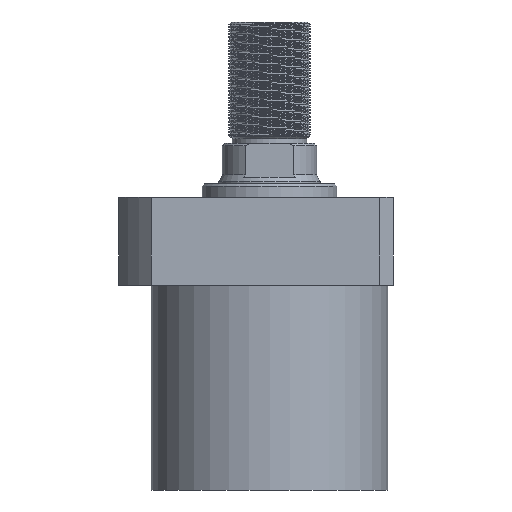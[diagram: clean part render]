
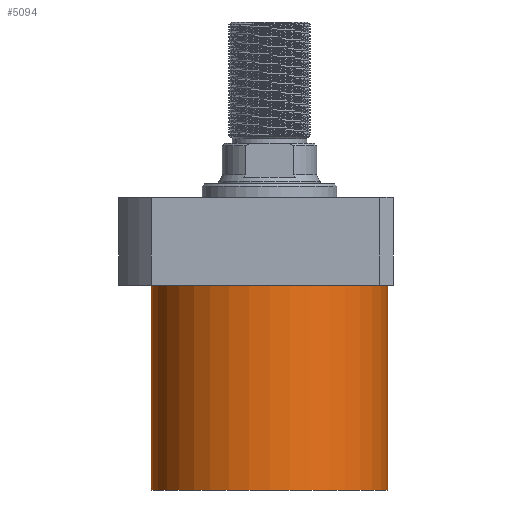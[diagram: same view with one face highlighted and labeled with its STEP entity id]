
A CAD part, front view. The second image highlights one B-rep face of the part: STEP entity #5094.
In plain terms, the highlighted cylindrical face has radius 52.5 mm (diameter 105 mm), a partial arc.
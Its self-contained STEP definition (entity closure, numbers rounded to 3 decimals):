
#373 = CARTESIAN_POINT ( 'NONE',  ( 52.5, 0., -19.5 ) ) ;
#559 = DIRECTION ( 'NONE',  ( -1., 0., 0. ) ) ;
#589 = CARTESIAN_POINT ( 'NONE',  ( -52.5, 0., -110.5 ) ) ;
#709 = VERTEX_POINT ( 'NONE', #589 ) ;
#719 = EDGE_LOOP ( 'NONE', ( #2262, #3493, #4073, #3870 ) ) ;
#1206 = CARTESIAN_POINT ( 'NONE',  ( 52.5, 0., -110.5 ) ) ;
#1286 = DIRECTION ( 'NONE',  ( 0., 0., 1. ) ) ;
#1516 = CIRCLE ( 'NONE', #2940, 52.5 ) ;
#1950 = CARTESIAN_POINT ( 'NONE',  ( 0., 0., -19.5 ) ) ;
#2262 = ORIENTED_EDGE ( 'NONE', *, *, #5927, .F. ) ;
#2354 = VECTOR ( 'NONE', #4240, 1000. ) ;
#2485 = CARTESIAN_POINT ( 'NONE',  ( 0., 0., -110.5 ) ) ;
#2551 = DIRECTION ( 'NONE',  ( 1., 0., 0. ) ) ;
#2914 = FACE_OUTER_BOUND ( 'NONE', #719, .T. ) ;
#2940 = AXIS2_PLACEMENT_3D ( 'NONE', #1950, #6255, #2551 ) ;
#2998 = CARTESIAN_POINT ( 'NONE',  ( -52.5, 0., -19.5 ) ) ;
#3107 = EDGE_CURVE ( 'NONE', #3467, #6890, #1516, .T. ) ;
#3163 = AXIS2_PLACEMENT_3D ( 'NONE', #2485, #1286, #4953 ) ;
#3334 = CARTESIAN_POINT ( 'NONE',  ( -52.5, 0., -110.5 ) ) ;
#3394 = LINE ( 'NONE', #3334, #6498 ) ;
#3467 = VERTEX_POINT ( 'NONE', #373 ) ;
#3493 = ORIENTED_EDGE ( 'NONE', *, *, #6868, .F. ) ;
#3870 = ORIENTED_EDGE ( 'NONE', *, *, #3107, .T. ) ;
#3965 = DIRECTION ( 'NONE',  ( 0., 0., 1. ) ) ;
#4073 = ORIENTED_EDGE ( 'NONE', *, *, #6515, .T. ) ;
#4240 = DIRECTION ( 'NONE',  ( 0., 0., 1. ) ) ;
#4250 = DIRECTION ( 'NONE',  ( 0., 0., -1. ) ) ;
#4953 = DIRECTION ( 'NONE',  ( 1., 0., 0. ) ) ;
#5094 = ADVANCED_FACE ( 'NONE', ( #2914 ), #6015, .T. ) ;
#5708 = CIRCLE ( 'NONE', #6812, 52.5 ) ;
#5927 = EDGE_CURVE ( 'NONE', #709, #6890, #3394, .T. ) ;
#6015 = CYLINDRICAL_SURFACE ( 'NONE', #3163, 52.5 ) ;
#6018 = LINE ( 'NONE', #7334, #2354 ) ;
#6255 = DIRECTION ( 'NONE',  ( 0., 0., -1. ) ) ;
#6498 = VECTOR ( 'NONE', #3965, 1000. ) ;
#6515 = EDGE_CURVE ( 'NONE', #7680, #3467, #6018, .T. ) ;
#6812 = AXIS2_PLACEMENT_3D ( 'NONE', #7989, #4250, #559 ) ;
#6868 = EDGE_CURVE ( 'NONE', #7680, #709, #5708, .T. ) ;
#6890 = VERTEX_POINT ( 'NONE', #2998 ) ;
#7334 = CARTESIAN_POINT ( 'NONE',  ( 52.5, 0., -110.5 ) ) ;
#7680 = VERTEX_POINT ( 'NONE', #1206 ) ;
#7989 = CARTESIAN_POINT ( 'NONE',  ( 0., 0., -110.5 ) ) ;
